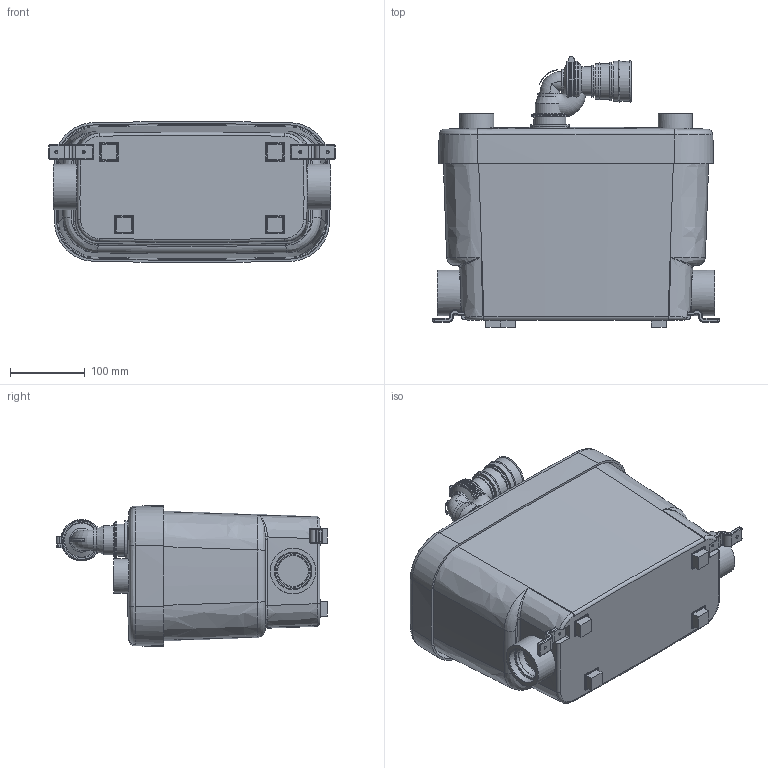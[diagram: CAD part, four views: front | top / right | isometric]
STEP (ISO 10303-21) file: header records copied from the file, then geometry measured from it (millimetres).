
FILE_DESCRIPTION (( 'STEP AP214' ), '1' );
FILE_NAME ('Sanivite + USA v2.STEP', '2018-11-05T11:05:02', ( 'VHUMBERT' ), ( '' ), 'SwSTEP 2.0', 'SolidWorks 2018', '' );
FILE_SCHEMA (( 'AUTOMOTIVE_DESIGN' ));
Length unit declared in the file: millimetre
Products named in the file (1): Sanivite + USA v2
Bounding box: 383.31 x 362.76 x 188.73 mm (x, y, z)
Volume: 1286560 mm3; surface area: 856008.1 mm2
Topology: 1 solids, 2 shells, 773 faces, 1836 edges, 1168 vertices
Faces by surface type: plane 402, cylinder 147, bspline 95, torus 74, cone 55
Full cylindrical faces by diameter (mm): 3 x2, 4 x4, 9 x2, 18 x2, 27 x2, 32 x2, 32.6 x1, 38.6 x2, 39 x1, 40.5 x1, 41.4 x1, 42.2 x2, 42.6 x1, 43 x1, 45 x1, 45.5 x2, 46 x3, 46.5 x1, 47.4 x4, 50 x1, 51.4 x1, 51.5 x2, 52 x1, 52.2 x1, 52.5 x1, 53.4 x2, 61 x2
Entity records: 40208 total; most frequent: CARTESIAN_POINT 14891, ORIENTED_EDGE 3446, DIRECTION 3356, EDGE_CURVE 1723, AXIS2_PLACEMENT_3D 1300, VERTEX_POINT 1142, EDGE_LOOP 969, FACE_OUTER_BOUND 833
